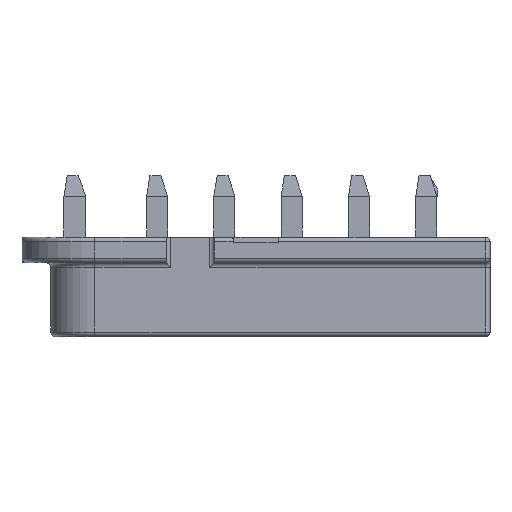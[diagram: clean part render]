
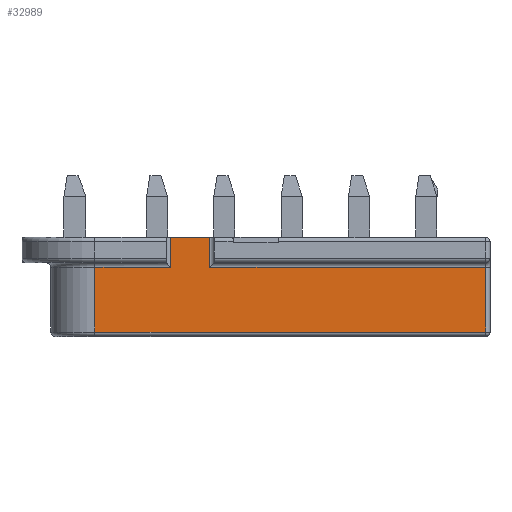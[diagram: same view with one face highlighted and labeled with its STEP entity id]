
A CAD part, front view. The second image highlights one B-rep face of the part: STEP entity #32989.
In plain terms, the highlighted planar face has unit normal (0, -1, 0).
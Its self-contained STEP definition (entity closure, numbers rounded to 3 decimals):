
#1245=DIRECTION('',(1.,0.,0.));
#1246=VECTOR('',#1245,4.445);
#1247=CARTESIAN_POINT('',(-9.665,-27.724,0.));
#1248=LINE('',#1247,#1246);
#11663=DIRECTION('',(0.,0.,-1.));
#11664=VECTOR('',#11663,7.341);
#11665=CARTESIAN_POINT('',(-18.237,-27.724,-3.404));
#11666=LINE('',#11665,#11664);
#11672=DIRECTION('',(-1.,0.,0.));
#11673=VECTOR('',#11672,8.573);
#11674=CARTESIAN_POINT('',(-9.665,-27.724,-3.404));
#11675=LINE('',#11674,#11673);
#11676=DIRECTION('',(-1.,0.,0.));
#11677=VECTOR('',#11676,31.204);
#11678=CARTESIAN_POINT('',(25.984,-27.724,-3.404));
#11679=LINE('',#11678,#11677);
#11741=DIRECTION('',(0.,0.,1.));
#11742=VECTOR('',#11741,3.404);
#11743=CARTESIAN_POINT('',(-9.665,-27.724,-3.404));
#11744=LINE('',#11743,#11742);
#11745=DIRECTION('',(0.,0.,1.));
#11746=VECTOR('',#11745,3.404);
#11747=CARTESIAN_POINT('',(-5.22,-27.724,-3.404));
#11748=LINE('',#11747,#11746);
#11749=DIRECTION('',(0.,0.,1.));
#11750=VECTOR('',#11749,7.341);
#11751=CARTESIAN_POINT('',(25.984,-27.724,-10.744));
#11752=LINE('',#11751,#11750);
#11753=DIRECTION('',(-1.,0.,0.));
#11754=VECTOR('',#11753,44.221);
#11755=CARTESIAN_POINT('',(25.984,-27.724,-10.744));
#11756=LINE('',#11755,#11754);
#13884=CARTESIAN_POINT('',(-18.237,-27.724,-10.744));
#13885=VERTEX_POINT('',#13884);
#15258=CARTESIAN_POINT('',(-9.665,-27.724,-3.404));
#15259=CARTESIAN_POINT('',(-9.665,-27.724,0.));
#15260=VERTEX_POINT('',#15258);
#15261=VERTEX_POINT('',#15259);
#15270=CARTESIAN_POINT('',(-5.22,-27.724,-3.404));
#15271=CARTESIAN_POINT('',(-5.22,-27.724,0.));
#15272=VERTEX_POINT('',#15270);
#15273=VERTEX_POINT('',#15271);
#15278=CARTESIAN_POINT('',(-18.237,-27.724,-3.404));
#15280=VERTEX_POINT('',#15278);
#15288=CARTESIAN_POINT('',(25.984,-27.724,-10.744));
#15289=VERTEX_POINT('',#15288);
#15312=CARTESIAN_POINT('',(25.984,-27.724,-3.404));
#15313=VERTEX_POINT('',#15312);
#32972=CARTESIAN_POINT('',(26.492,-27.724,-2.896));
#32973=DIRECTION('',(0.,-1.,0.));
#32974=DIRECTION('',(-1.,0.,0.));
#32975=AXIS2_PLACEMENT_3D('',#32972,#32973,#32974);
#32976=PLANE('',#32975);
#32977=ORIENTED_EDGE('',*,*,#32963,.T.);
#32978=ORIENTED_EDGE('',*,*,#15403,.T.);
#32980=ORIENTED_EDGE('',*,*,#32979,.F.);
#32981=ORIENTED_EDGE('',*,*,#32948,.F.);
#32983=ORIENTED_EDGE('',*,*,#32982,.F.);
#32984=ORIENTED_EDGE('',*,*,#32882,.T.);
#32985=ORIENTED_EDGE('',*,*,#32910,.F.);
#32986=ORIENTED_EDGE('',*,*,#32937,.F.);
#32987=EDGE_LOOP('',(#32977,#32978,#32980,#32981,#32983,#32984,#32985,#32986));
#32988=FACE_OUTER_BOUND('',#32987,.F.);
#32989=ADVANCED_FACE('',(#32988),#32976,.T.);
#15403=EDGE_CURVE('',#15261,#15273,#1248,.T.);
#32882=EDGE_CURVE('',#15289,#13885,#11756,.T.);
#32910=EDGE_CURVE('',#15280,#13885,#11666,.T.);
#32937=EDGE_CURVE('',#15260,#15280,#11675,.T.);
#32948=EDGE_CURVE('',#15313,#15272,#11679,.T.);
#32963=EDGE_CURVE('',#15260,#15261,#11744,.T.);
#32979=EDGE_CURVE('',#15272,#15273,#11748,.T.);
#32982=EDGE_CURVE('',#15289,#15313,#11752,.T.);
